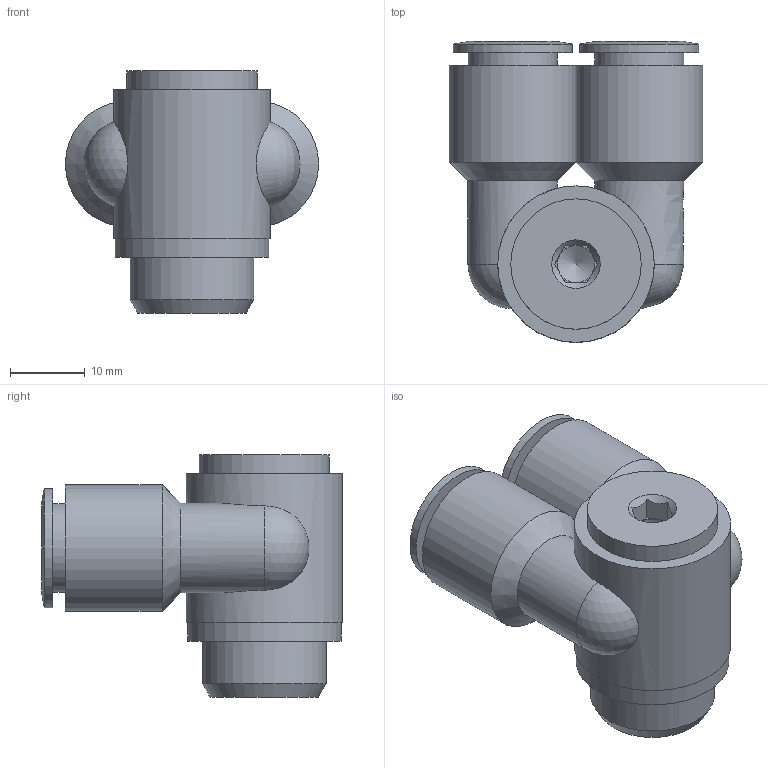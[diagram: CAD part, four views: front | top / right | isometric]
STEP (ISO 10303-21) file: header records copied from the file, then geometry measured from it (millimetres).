
FILE_DESCRIPTION((''),'2;1');
FILE_NAME('C:\Documents and Settings\rivolro1\Documenti\copia di Raccordi\PLASTICA\T15BXXXX\T15B1038.stp','2007-10-31T08:03:04',('Rivolro1'),(''),'Autodesk Inventor 2008','Autodesk Inventor 2008','');
FILE_SCHEMA(('AUTOMOTIVE_DESIGN { 1 0 10303 214 1 1 1 1 }'));
Length unit declared in the file: millimetre
Products named in the file (1): T15B1038
Bounding box: 34 x 40.4 x 32.5 mm (x, y, z)
Volume: 14745.4 mm3; surface area: 7629.7 mm2
Topology: 1 solids, 1 shells, 57 faces, 116 edges, 72 vertices
Faces by surface type: bspline 22, plane 20, cylinder 11, cone 3, sphere 1
Full cylindrical faces by diameter (mm): 8.3 x1, 11.9 x1, 12 x1, 16 x1, 16.6 x1, 17 x1, 17.5 x1, 20.6 x1, 21 x1
Entity records: 1918 total; most frequent: CARTESIAN_POINT 878, DIRECTION 184, ORIENTED_EDGE 170, EDGE_LOOP 92, EDGE_CURVE 85, AXIS2_PLACEMENT_3D 81, VERTEX_POINT 63, FACE_OUTER_BOUND 57
